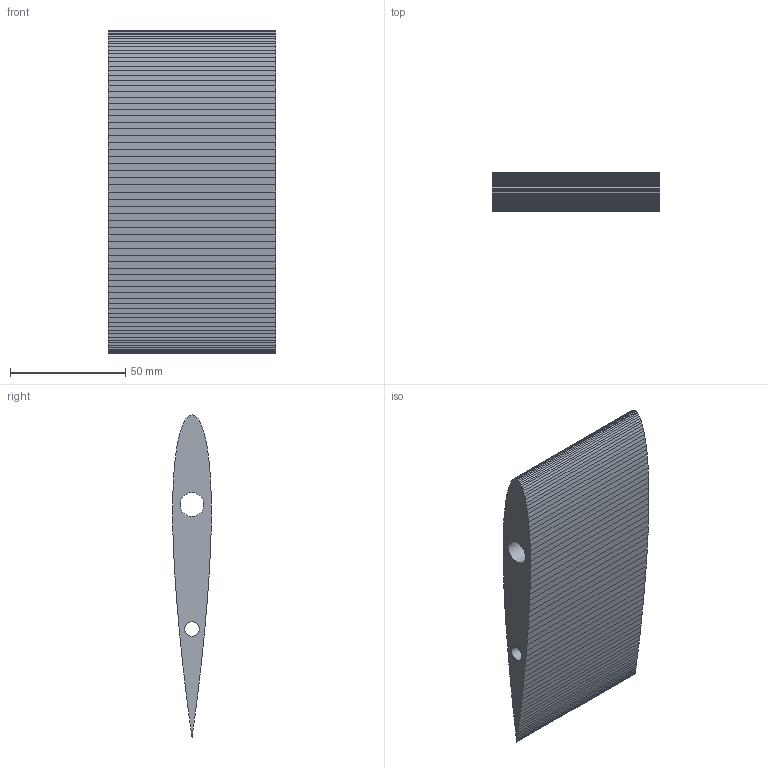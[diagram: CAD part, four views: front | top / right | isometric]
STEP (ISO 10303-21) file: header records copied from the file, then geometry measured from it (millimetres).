
FILE_DESCRIPTION(('Open CASCADE Model'),'2;1');
FILE_NAME('Open CASCADE Shape Model','2026-09-12T16:48:06',('Author'),( 'Open CASCADE'),'Open CASCADE STEP processor 7.9','Open CASCADE 7.9' ,'Unknown');
FILE_SCHEMA(('AUTOMOTIVE_DESIGN { 1 0 10303 214 1 1 1 1 }'));
Length unit declared in the file: millimetre
Products named in the file (1): Open CASCADE STEP translator 7.9 17
Bounding box: 72.8 x 16.8 x 140 mm (x, y, z)
Volume: 19905.2 mm3; surface area: 57098.6 mm2
Topology: 1 solids, 4 shells, 582 faces, 1722 edges, 1148 vertices
Faces by surface type: plane 574, cylinder 8
Full cylindrical faces by diameter (mm): 6.3 x1, 7.5 x3, 10.3 x1, 11.5 x3
Entity records: 41476 total; most frequent: CARTESIAN_POINT 6921, DIRECTION 6344, LINE 5134, VECTOR 5134, ORIENTED_EDGE 3444, PCURVE 3444, DEFINITIONAL_REPRESENTATION 3444, EDGE_CURVE 1722
